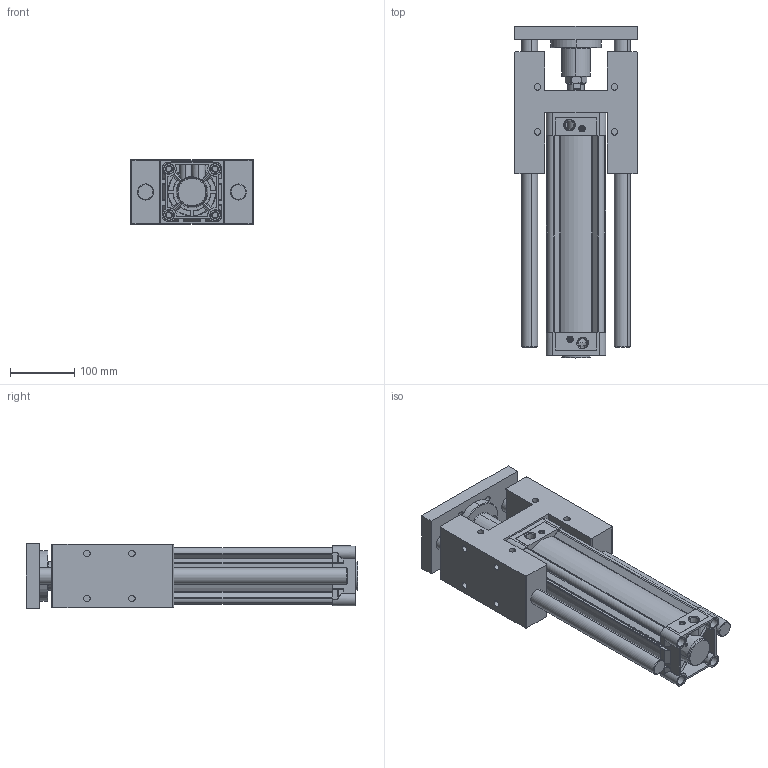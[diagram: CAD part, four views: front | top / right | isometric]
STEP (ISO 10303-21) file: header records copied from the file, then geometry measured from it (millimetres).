
FILE_DESCRIPTION (( 'STEP AP203' ), '1' );
FILE_NAME ('MDNC80X250H-YATAK.STEP', '2016-05-20T07:22:49', ( 'user' ), ( '' ), 'SwSTEP 2.0', 'SolidWorks 2013', '' );
FILE_SCHEMA (( 'CONFIG_CONTROL_DESIGN' ));
Length unit declared in the file: millimetre
Products named in the file (11): Piston Mili 80x250; DNC-H-YATAK 80; SOMUN 80; DNC-H-YATAK M尳 80x250; MDNC80X250H-YATAK; DNC-H-YATAK TABLA 80; DNC-H-YATAK MÝL YATAÐI 80; ARKA KAPAK  80; KDNT 80X250 BORU; ORTA PÝSTON 80; 烰 KAPAK  80
Assembly tree (11 placements, depth 2):
  MDNC80X250H-YATAK
    DNC-H-YATAK 80
    DNC-H-YATAK M尳 80x250  x2
    DNC-H-YATAK TABLA 80
    DNC-H-YATAK MÝL YATAÐI 80
    ARKA KAPAK  80
    KDNT 80X250 BORU
    ORTA PÝSTON 80
    烰 KAPAK  80
    Piston Mili 80x250
    SOMUN 80
Bounding box: 191 x 516.9 x 100.5 mm (x, y, z)
Volume: 3828268.5 mm3; surface area: 817614.8 mm2
Topology: 11 solids, 11 shells, 1227 faces, 3195 edges, 2053 vertices
Faces by surface type: cylinder 538, plane 367, cone 218, bspline 92, torus 12
Entity records: 51116 total; most frequent: CARTESIAN_POINT 21753, ORIENTED_EDGE 6342, DIRECTION 5141, EDGE_CURVE 3171, VERTEX_POINT 2045, AXIS2_PLACEMENT_3D 1949, EDGE_LOOP 1388, VECTOR 1243
